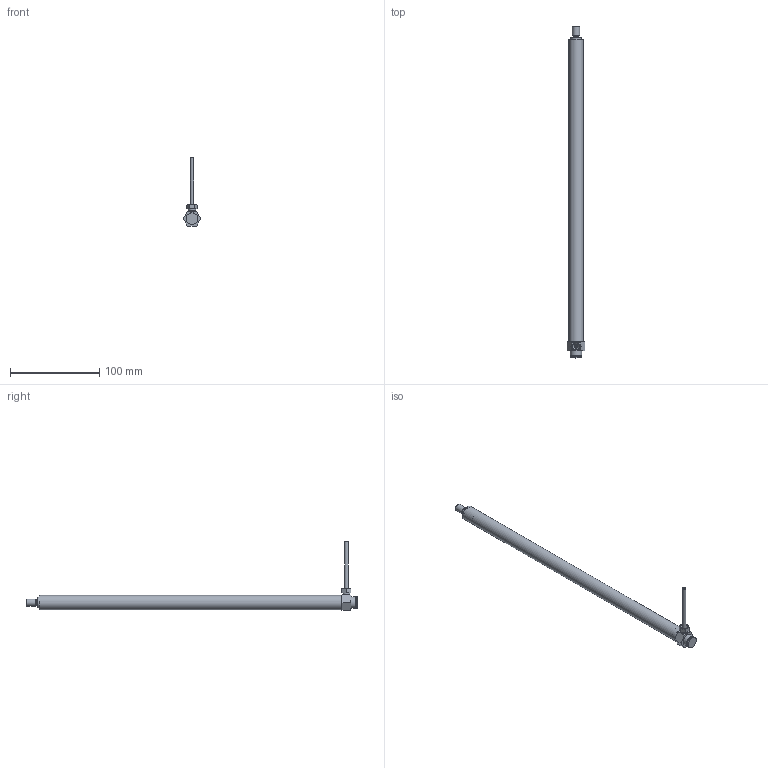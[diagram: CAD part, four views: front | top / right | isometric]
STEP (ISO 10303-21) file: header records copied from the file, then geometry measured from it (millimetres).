
FILE_DESCRIPTION(/* description */ ('Unknown'),/* implementation_level */ '2;1');
FILE_NAME(/* name */ '107.00143 Zylinder CH 1430_eingefahren',/* time_stamp */ '2018-06-21T14:52:38+02:00',/* author */ ('Unknown'),/* organization */ ('Unknown'),/* preprocessor_version */ 'ST-DEVELOPER v16.7',/* originating_system */ 'DEX',/* authorisation */ $);
FILE_SCHEMA (('AUTOMOTIVE_DESIGN {1 0 10303 214 3 1 1}'));
Length unit declared in the file: millimetre
Products named in the file (9): 107.00143; 121.00003; 142.00021; 125.00021; 115.00001_oa_0; 125.00033; 120.00023; 122.00001; 113.00002_70mm
Assembly tree (8 placements, depth 2):
  107.00143
    121.00003
    142.00021
    125.00021
    115.00001_oa_0
    125.00033
    120.00023
    122.00001
    113.00002_70mm
Bounding box: 19.63 x 371 x 76.5 mm (x, y, z)
Volume: 58757.7 mm3; surface area: 50363.1 mm2
Topology: 7 solids, 7 shells, 97 faces, 197 edges, 125 vertices
Faces by surface type: plane 38, cylinder 29, cone 24, torus 5, sphere 1
Full cylindrical faces by diameter (mm): 2.2 x1, 2.78 x1, 3.5 x1, 4 x1, 4.1 x1, 4.2 x1, 6 x1, 6.917 x2, 7.763 x2, 8 x4, 8.1 x3, 9 x1, 12 x2, 12.5 x1, 13 x2, 13.9 x2, 14 x2, 16 x1
Entity records: 2964 total; most frequent: CARTESIAN_POINT 416, DIRECTION 406, ORIENTED_EDGE 258, AXIS2_PLACEMENT_3D 185, FACE_BOUND 174, EDGE_LOOP 172, EDGE_CURVE 129, VERTEX_POINT 113
